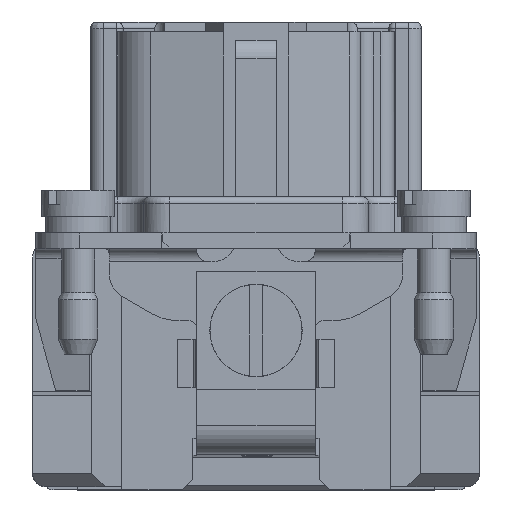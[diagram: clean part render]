
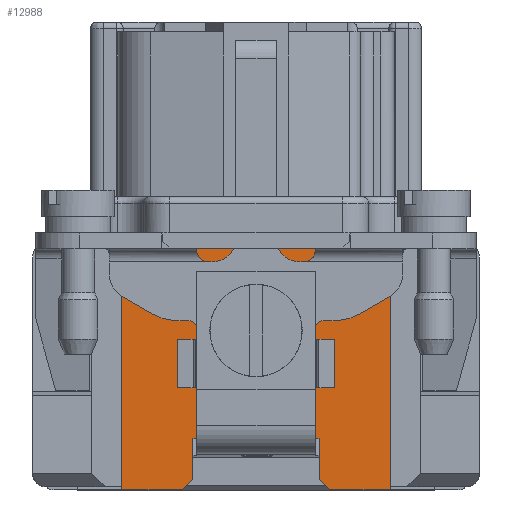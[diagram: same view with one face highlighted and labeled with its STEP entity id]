
A CAD part, left-side view. The second image highlights one B-rep face of the part: STEP entity #12988.
In plain terms, the highlighted planar face has unit normal (-1, 0, 0).
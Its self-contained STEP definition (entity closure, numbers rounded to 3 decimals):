
#11348=FACE_OUTER_BOUND('',#17634,.T.);
#12988=ADVANCED_FACE('',(#11348),#14123,.T.);
#14123=PLANE('',#42842);
#17634=EDGE_LOOP('',(#25415,#25416,#25417,#25418,#25419,#25420,#25421,#25422,
#25423,#25424,#25425,#25426,#25427,#25428,#25429,#25430));
#25415=ORIENTED_EDGE('',*,*,#28966,.T.);
#25416=ORIENTED_EDGE('',*,*,#28949,.T.);
#25417=ORIENTED_EDGE('',*,*,#28995,.F.);
#25418=ORIENTED_EDGE('',*,*,#32705,.F.);
#25419=ORIENTED_EDGE('',*,*,#31214,.F.);
#25420=ORIENTED_EDGE('',*,*,#31281,.F.);
#25421=ORIENTED_EDGE('',*,*,#31211,.T.);
#25422=ORIENTED_EDGE('',*,*,#32721,.T.);
#25423=ORIENTED_EDGE('',*,*,#32722,.F.);
#25424=ORIENTED_EDGE('',*,*,#32723,.F.);
#25425=ORIENTED_EDGE('',*,*,#32720,.F.);
#25426=ORIENTED_EDGE('',*,*,#31278,.F.);
#25427=ORIENTED_EDGE('',*,*,#30766,.T.);
#25428=ORIENTED_EDGE('',*,*,#32707,.T.);
#25429=ORIENTED_EDGE('',*,*,#30755,.F.);
#25430=ORIENTED_EDGE('',*,*,#28969,.F.);
#26177=VERTEX_POINT('',#50933);
#26178=VERTEX_POINT('',#50934);
#26194=VERTEX_POINT('',#50968);
#26196=VERTEX_POINT('',#50974);
#26220=VERTEX_POINT('',#51025);
#27468=VERTEX_POINT('',#57080);
#27474=VERTEX_POINT('',#57100);
#27475=VERTEX_POINT('',#57102);
#27774=VERTEX_POINT('',#57968);
#27775=VERTEX_POINT('',#57970);
#27776=VERTEX_POINT('',#57974);
#27778=VERTEX_POINT('',#57977);
#27814=VERTEX_POINT('',#58081);
#28646=VERTEX_POINT('',#61039);
#28700=VERTEX_POINT('',#61591);
#28701=VERTEX_POINT('',#61593);
#28949=EDGE_CURVE('',#26177,#26178,#33078,.T.);
#28966=EDGE_CURVE('',#26194,#26177,#33093,.T.);
#28969=EDGE_CURVE('',#26194,#26196,#33095,.T.);
#28995=EDGE_CURVE('',#26220,#26178,#33120,.T.);
#30755=EDGE_CURVE('',#26196,#27468,#34358,.T.);
#30766=EDGE_CURVE('',#27475,#27474,#34369,.T.);
#31211=EDGE_CURVE('',#27775,#27774,#34748,.T.);
#31214=EDGE_CURVE('',#27776,#27778,#34751,.T.);
#31278=EDGE_CURVE('',#27475,#27814,#34790,.T.);
#31281=EDGE_CURVE('',#27775,#27776,#34793,.T.);
#32705=EDGE_CURVE('',#27778,#26220,#35770,.T.);
#32707=EDGE_CURVE('',#27474,#27468,#35772,.T.);
#32720=EDGE_CURVE('',#27814,#28646,#35779,.T.);
#32721=EDGE_CURVE('',#27774,#28700,#35780,.T.);
#32722=EDGE_CURVE('',#28701,#28700,#35781,.T.);
#32723=EDGE_CURVE('',#28646,#28701,#35782,.T.);
#33078=LINE('',#50932,#36089);
#33093=LINE('',#50967,#36104);
#33095=LINE('',#50973,#36106);
#33120=LINE('',#51026,#36131);
#34358=LINE('',#57079,#37369);
#34369=LINE('',#57101,#37380);
#34748=LINE('',#57969,#37759);
#34751=LINE('',#57976,#37762);
#34790=LINE('',#58080,#37801);
#34793=LINE('',#58084,#37804);
#35770=LINE('',#61553,#38781);
#35772=LINE('',#61558,#38783);
#35779=LINE('',#61587,#38790);
#35780=LINE('',#61590,#38791);
#35781=LINE('',#61592,#38792);
#35782=LINE('',#61594,#38793);
#36089=VECTOR('',#43106,1.);
#36104=VECTOR('',#43127,1.);
#36106=VECTOR('',#43133,1.);
#36131=VECTOR('',#43164,1.);
#37369=VECTOR('',#46126,1.);
#37380=VECTOR('',#46145,1.);
#37759=VECTOR('',#46902,1.);
#37762=VECTOR('',#46907,1.);
#37801=VECTOR('',#47004,1.);
#37804=VECTOR('',#47007,1.);
#38781=VECTOR('',#50102,1.);
#38783=VECTOR('',#50110,1.);
#38790=VECTOR('',#50157,1.);
#38791=VECTOR('',#50162,1.);
#38792=VECTOR('',#50163,1.);
#38793=VECTOR('',#50164,1.);
#42842=AXIS2_PLACEMENT_3D('',#61595,#50165,#50166);
#43106=DIRECTION('',(0.,0.,-1.));
#43127=DIRECTION('',(0.,-1.,0.));
#43133=DIRECTION('',(0.,0.,-1.));
#43164=DIRECTION('',(0.,1.,0.));
#46126=DIRECTION('',(0.,1.,0.));
#46145=DIRECTION('',(0.,-0.707,0.707));
#46902=DIRECTION('',(0.,0.,1.));
#46907=DIRECTION('',(0.,0.707,0.707));
#47004=DIRECTION('',(0.,1.,0.));
#47007=DIRECTION('',(0.,1.,0.));
#50102=DIRECTION('',(0.,0.,1.));
#50110=DIRECTION('',(0.,0.,1.));
#50157=DIRECTION('',(0.,0.,1.));
#50162=DIRECTION('',(0.,0.,1.));
#50163=DIRECTION('',(0.,-1.,0.));
#50164=DIRECTION('',(0.,0.,1.));
#50165=DIRECTION('',(-1.,0.,0.));
#50166=DIRECTION('',(0.,-1.,0.));
#50932=CARTESIAN_POINT('',(-44.863,-4.5,-18.3));
#50933=CARTESIAN_POINT('',(-44.863,-4.5,-14.027));
#50934=CARTESIAN_POINT('',(-44.863,-4.5,-14.364));
#50967=CARTESIAN_POINT('',(-44.863,0.,-14.027));
#50968=CARTESIAN_POINT('',(-44.863,4.5,-14.027));
#50973=CARTESIAN_POINT('',(-44.863,4.5,-5.45));
#50974=CARTESIAN_POINT('',(-44.863,4.5,-14.364));
#51025=CARTESIAN_POINT('',(-44.863,-4.8,-14.364));
#51026=CARTESIAN_POINT('',(-44.863,-4.5,-14.364));
#57079=CARTESIAN_POINT('',(-44.863,-4.5,-14.364));
#57080=CARTESIAN_POINT('',(-44.863,4.8,-14.364));
#57100=CARTESIAN_POINT('',(-44.863,4.8,-17.5));
#57101=CARTESIAN_POINT('',(-44.863,5.6,-18.3));
#57102=CARTESIAN_POINT('',(-44.863,5.6,-18.3));
#57968=CARTESIAN_POINT('',(-44.863,-10.175,-18.05));
#57969=CARTESIAN_POINT('',(-44.863,-10.175,-18.3));
#57970=CARTESIAN_POINT('',(-44.863,-10.175,-18.3));
#57974=CARTESIAN_POINT('',(-44.863,-5.6,-18.3));
#57976=CARTESIAN_POINT('',(-44.863,-5.6,-18.3));
#57977=CARTESIAN_POINT('',(-44.863,-4.8,-17.5));
#58080=CARTESIAN_POINT('',(-44.863,5.6,-18.3));
#58081=CARTESIAN_POINT('',(-44.863,10.175,-18.3));
#58084=CARTESIAN_POINT('',(-44.863,-10.175,-18.3));
#61039=CARTESIAN_POINT('',(-44.863,10.175,-18.05));
#61553=CARTESIAN_POINT('',(-44.863,-4.8,-17.5));
#61558=CARTESIAN_POINT('',(-44.863,4.8,-17.5));
#61587=CARTESIAN_POINT('',(-44.863,10.175,-18.3));
#61590=CARTESIAN_POINT('',(-44.863,-10.175,-18.3));
#61591=CARTESIAN_POINT('',(-44.863,-10.175,0.05));
#61592=CARTESIAN_POINT('',(-44.863,9.375,0.05));
#61593=CARTESIAN_POINT('',(-44.863,10.175,0.05));
#61594=CARTESIAN_POINT('',(-44.863,10.175,-18.3));
#61595=CARTESIAN_POINT('',(-44.863,10.175,-18.3));
